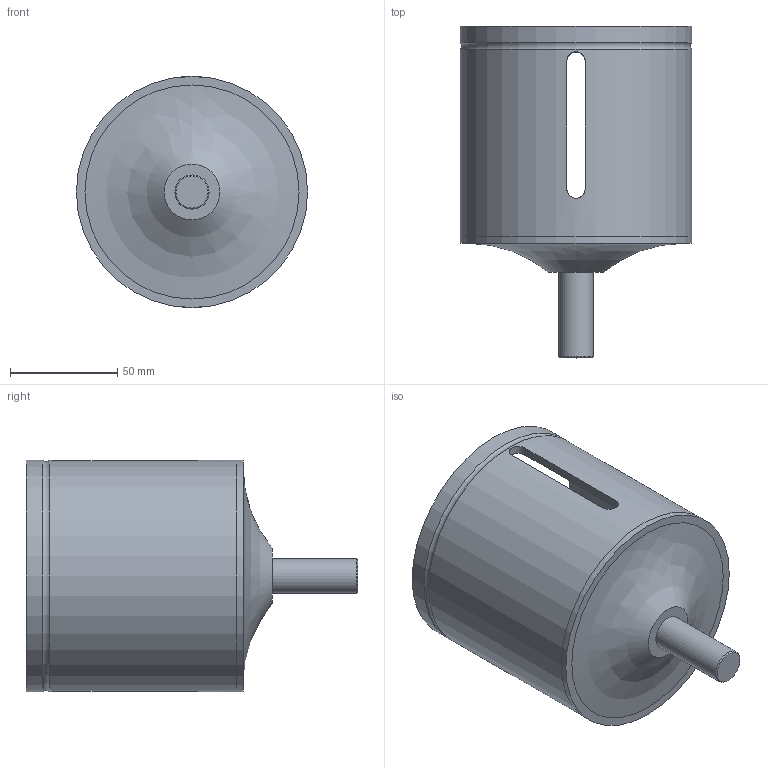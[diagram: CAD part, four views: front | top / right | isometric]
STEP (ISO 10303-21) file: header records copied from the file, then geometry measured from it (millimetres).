
FILE_DESCRIPTION(/* description */ (''),/* implementation_level */ '2;1');
FILE_NAME(/* name */ 'C:\Evgeny\Noga Works\_Noga MT Brush\solidcam\Sleeves for Face Brush D100 UF5500.stp',/* time_stamp */ '2025-03-23T10:17:30+02:00',/* author */ ('evgeny'),/* organization */ (''),/* preprocessor_version */ 'ST-DEVELOPER v20',/* originating_system */ 'Autodesk Inventor 2022',/* authorisation */ '');
FILE_SCHEMA (('AUTOMOTIVE_DESIGN { 1 0 10303 214 3 1 1 }'));
Length unit declared in the file: millimetre
Products named in the file (1): Sleeves for Face Brush D100
Bounding box: 108 x 155 x 108 mm (x, y, z)
Volume: 239324.6 mm3; surface area: 98298.5 mm2
Topology: 3 solids, 3 shells, 31 faces, 63 edges, 42 vertices
Faces by surface type: plane 14, cylinder 13, cone 2, torus 1, bspline 1
Full cylindrical faces by diameter (mm): 16 x2, 26 x1, 92 x1, 100 x2, 108 x3
Entity records: 1033 total; most frequent: CARTESIAN_POINT 299, DIRECTION 145, ORIENTED_EDGE 126, EDGE_CURVE 63, AXIS2_PLACEMENT_3D 59, EDGE_LOOP 43, VERTEX_POINT 42, FACE_OUTER_BOUND 31
